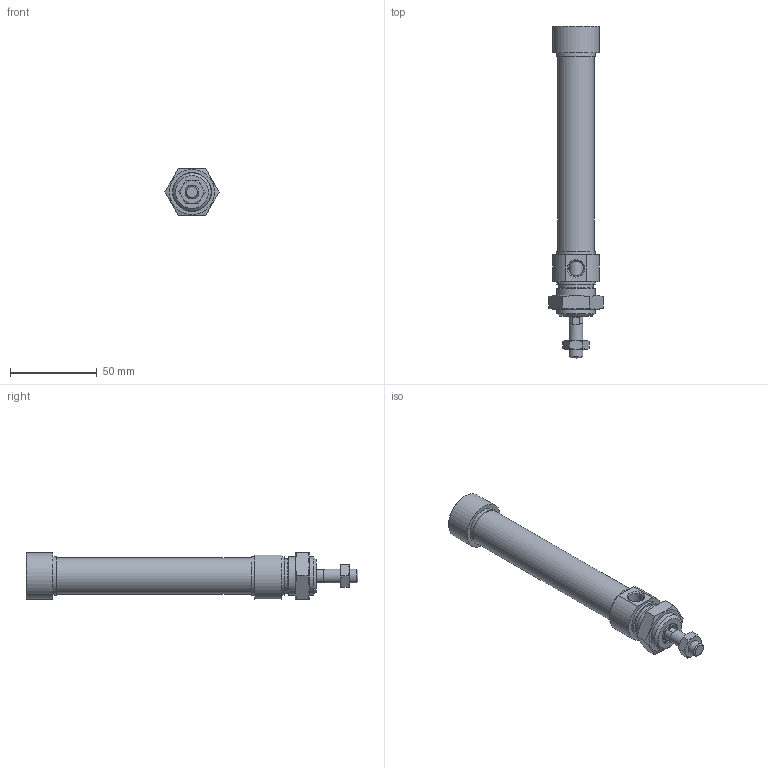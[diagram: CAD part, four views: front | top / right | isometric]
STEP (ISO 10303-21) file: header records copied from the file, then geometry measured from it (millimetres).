
FILE_DESCRIPTION(/* description */ ('Unknown'),/* implementation_level */ '2;1');
FILE_NAME(/* name */ 'RIMA 20_80',/* time_stamp */ '2024-08-30T12:59:55+02:00',/* author */ ('Unknown'),/* organization */ ('Unknown'),/* preprocessor_version */ 'ST-DEVELOPER v16.7',/* originating_system */ 'Solid Edge',/* authorisation */ 'Unknown');
FILE_SCHEMA (('AUTOMOTIVE_DESIGN {1 0 10303 214 3 1 1}'));
Length unit declared in the file: millimetre
Products named in the file (7): RIMA 20_80; Profilrohr; Kolbenstange; Kit_1; Kit_2; Mutter_1; Mutter_2
Assembly tree (6 placements, depth 2):
  RIMA 20_80
    Profilrohr
    Kolbenstange
    Kit_1
    Kit_2
    Mutter_1
    Mutter_2
Bounding box: 31.18 x 191 x 27 mm (x, y, z)
Volume: 49026.4 mm3; surface area: 31254.5 mm2
Topology: 6 solids, 6 shells, 121 faces, 240 edges, 148 vertices
Faces by surface type: plane 47, cone 39, cylinder 28, torus 7
Full cylindrical faces by diameter (mm): 1.7 x1, 6.647 x1, 8 x2, 8.5 x1, 8.56 x2, 8.566 x2, 9.1 x1, 12 x1, 12.1 x1, 14.1 x1, 14.2 x1, 17.9 x1, 19.7 x1, 20 x3, 20.376 x1, 21.27 x1, 22 x2, 22.2 x2, 27 x1
Entity records: 3667 total; most frequent: CARTESIAN_POINT 540, DIRECTION 488, ORIENTED_EDGE 340, AXIS2_PLACEMENT_3D 230, EDGE_LOOP 204, FACE_BOUND 204, EDGE_CURVE 170, VERTEX_POINT 136
